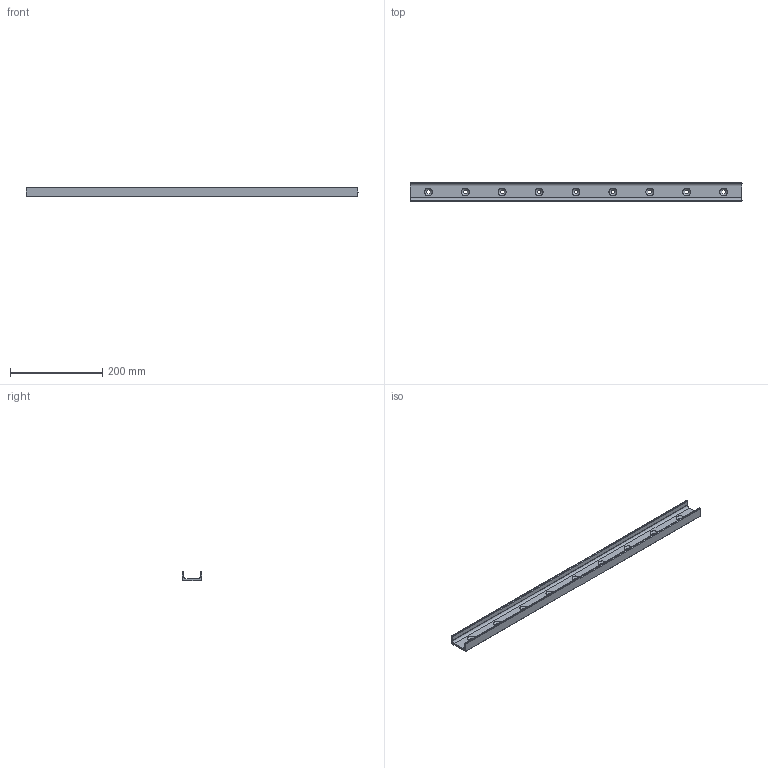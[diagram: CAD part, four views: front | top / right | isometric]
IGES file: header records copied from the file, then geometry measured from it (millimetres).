
Start section: SolidWorks IGES file using analytic representation for surfaces
Global section: file name: C:\Users\IanO\Desktop\43\L1943.ULV43_v2_20180121_IGES\L1943.ULV43-0720.igs; native system: SolidWorks 2017; preprocessor: SolidWorks 2017; author: IanO; date: 190121.085928; units: millimetre
Bounding box: 720 x 43 x 21 mm (x, y, z)
Surface area: 112203.9 mm2 (no closed solid volume)
Topology: 0 solids, 0 shells, 62 faces, 1014 edges, 1014 vertices
Faces by surface type: revolution 49, bspline 13
